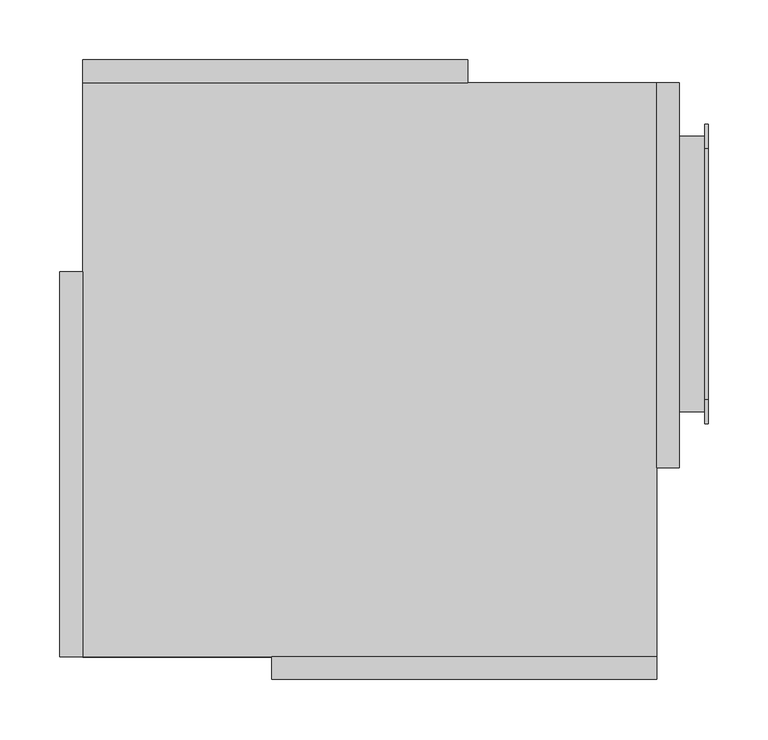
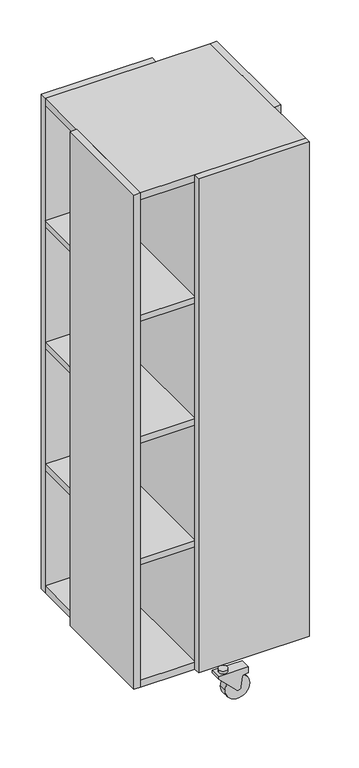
"""IFC4 building model written with IfcOpenShell, lengths in millimetres: furniture geometry, BK Library - Linnea : BK Library - Linnea."""

from ifc_helpers import new_model, si_unit, point, frame, frame_2d, origin, place, context, project, spatial, polyline, circle_curve, trimmed, segment, composite_curve, outline, extrude, source, transform, mapped, element, save
from ifc_brep_helpers import plane_surface, cylinder_surface, advanced_brep


def furniture_a3d0dc02(model_context):
    return source(origin(), model_context, "Body", "SolidModel", [
        advanced_brep(
        [(283.0, -25.0, 1486.75), (283.0, -45.0, 1466.75), (283.0, -45.0, 1274.75), (283.0, -40.0, 1269.75), (283.0, -35.0, 1269.75), (283.0, 195.0, 1269.75), (283.0, 200.0, 1269.75), (283.0, 205.0, 1274.75), (283.0, 205.0, 1466.75), (283.0, 185.0, 1486.75), (280.0, -25.0, 1486.75), (280.0, 185.0, 1486.75), (280.0, 205.0, 1466.75), (280.0, 205.0, 1274.75), (280.0, 200.0, 1269.75), (280.0, 195.0, 1269.75), (280.0, -35.0, 1269.75), (280.0, -40.0, 1269.75), (280.0, -45.0, 1274.75), (280.0, -45.0, 1466.75), (280.0, 195.0, 1266.75), (259.0, 195.0, 1266.75), (259.0, 195.0, 1269.75), (259.0, -35.0, 1269.75), (259.0, -35.0, 1266.75), (280.0, -35.0, 1266.75)],
        [
            (0, 1, circle_curve(frame((283.0, -25.0, 1466.75), z_axis=(1.0, 0.0, 0.0), x_axis=(0.0, -1.0, 0.0)), 20.0)),
            (1, 2),
            (2, 3, circle_curve(frame((283.0, -40.0, 1274.75), z_axis=(1.0, 0.0, 0.0), x_axis=(0.0, -1.0, 0.0)), 5.0)),
            (3, 4),
            (4, 5),
            (5, 6),
            (6, 7, circle_curve(frame((283.0, 200.0, 1274.75), z_axis=(1.0, 0.0, 0.0), x_axis=(0.0, -1.0, 0.0)), 5.0)),
            (7, 8),
            (8, 9, circle_curve(frame((283.0, 185.0, 1466.75), z_axis=(1.0, 0.0, 0.0), x_axis=(0.0, -1.0, 0.0)), 20.0)),
            (9, 0),
            (10, 11),
            (11, 12, circle_curve(frame((280.0, 185.0, 1466.75), z_axis=(-1.0, 0.0, 0.0), x_axis=(0.0, -1.0, 0.0)), 20.0)),
            (12, 13),
            (13, 14, circle_curve(frame((280.0, 200.0, 1274.75), z_axis=(-1.0, 0.0, 0.0), x_axis=(0.0, -1.0, 0.0)), 5.0)),
            (14, 15),
            (15, 16),
            (16, 17),
            (17, 18, circle_curve(frame((280.0, -40.0, 1274.75), z_axis=(-1.0, 0.0, 0.0), x_axis=(0.0, -1.0, 0.0)), 5.0)),
            (18, 19),
            (19, 10, circle_curve(frame((280.0, -25.0, 1466.75), z_axis=(-1.0, 0.0, 0.0), x_axis=(0.0, -1.0, 0.0)), 20.0)),
            (0, 10),
            (19, 1),
            (18, 2),
            (17, 3),
            (16, 4),
            (5, 15),
            (14, 6),
            (13, 7),
            (12, 8),
            (11, 9),
            (5, 20, circle_curve(frame((280.0, 195.0, 1269.75), z_axis=(0.0, 1.0, 0.0), x_axis=(-1.0, 0.0, 0.0)), 3.0)),
            (20, 21),
            (21, 22),
            (22, 15),
            (16, 23),
            (23, 24),
            (24, 25),
            (25, 4, circle_curve(frame((280.0, -35.0, 1269.75), z_axis=(0.0, -1.0, 0.0), x_axis=(-1.0, 0.0, 0.0)), 3.0)),
            (25, 20),
            (24, 21),
            (23, 22),
        ],
        [
            plane_surface(frame((283.0, -45.0, 1466.75), z_axis=(1.0, 0.0, 0.0), x_axis=(0.0, 0.0, -1.0))),
            plane_surface(frame((280.0, -45.0, 1466.75), z_axis=(-1.0, 0.0, 0.0), x_axis=(0.0, 0.0, 1.0))),
            cylinder_surface(frame((280.0, -25.0, 1466.75), z_axis=(1.0, 0.0, 0.0), x_axis=(0.0, -1.0, 0.0)), 20.0),
            plane_surface(frame((283.0, -45.0, 1466.75), z_axis=(0.0, -1.0, 0.0), x_axis=(-1.0, 0.0, 0.0))),
            cylinder_surface(frame((280.0, -40.0, 1274.75), z_axis=(1.0, 0.0, 0.0), x_axis=(0.0, -1.0, 0.0)), 5.0),
            plane_surface(frame((283.0, -40.0, 1269.75), z_axis=(0.0, 0.0, -1.0), x_axis=(-1.0, 0.0, 0.0))),
            plane_surface(frame((283.0, 195.0, 1269.75), z_axis=(0.0, 0.0, -1.0), x_axis=(-1.0, 0.0, 0.0))),
            cylinder_surface(frame((280.0, 200.0, 1274.75), z_axis=(1.0, 0.0, 0.0), x_axis=(0.0, -1.0, 0.0)), 5.0),
            plane_surface(frame((283.0, 205.0, 1274.75), z_axis=(0.0, 1.0, 0.0), x_axis=(-1.0, 0.0, 0.0))),
            cylinder_surface(frame((280.0, 185.0, 1466.75), z_axis=(1.0, 0.0, 0.0), x_axis=(0.0, -1.0, 0.0)), 20.0),
            plane_surface(frame((283.0, 185.0, 1486.75), z_axis=(0.0, 0.0, 1.0), x_axis=(-1.0, 0.0, 0.0))),
            plane_surface(frame((280.0, 195.0, 895.5), z_axis=(0.0, 1.0, 0.0), x_axis=(1.0, 0.0, 0.0))),
            plane_surface(frame((280.0, -35.0, 895.5), z_axis=(0.0, -1.0, 0.0), x_axis=(-1.0, 0.0, 0.0))),
            cylinder_surface(frame((280.0, 0.0, 1269.75), z_axis=(0.0, 1.0, 0.0), x_axis=(-1.0, 0.0, 0.0)), 3.0),
            plane_surface(frame((280.0, 195.0, 1266.75), z_axis=(0.0, 0.0, -1.0), x_axis=(0.0, -1.0, 0.0))),
            plane_surface(frame((259.0, 195.0, 1266.75), z_axis=(-1.0, 0.0, 0.0), x_axis=(0.0, -1.0, 0.0))),
            plane_surface(frame((259.0, 195.0, 1269.75), z_axis=(0.0, 0.0, 1.0), x_axis=(0.0, -1.0, 0.0))),
        ],
        [
            (0, [[1, 2, 3, 4, 5, 6, 7, 8, 9, 10]]),
            (1, [[11, 12, 13, 14, 15, 16, 17, 18, 19, 20]]),
            (2, [[-1, 21, -20, 22]]),
            (3, [[-2, -22, -19, 23]]),
            (4, [[-3, -23, -18, 24]]),
            (5, [[-4, -24, -17, 25]]),
            (6, [[-6, 26, -15, 27]]),
            (7, [[-7, -27, -14, 28]]),
            (8, [[-8, -28, -13, 29]]),
            (9, [[-9, -29, -12, 30]]),
            (10, [[-10, -30, -11, -21]]),
            (11, [[31, 32, 33, 34, -26]]),
            (12, [[35, 36, 37, 38, -25]]),
            (13, [[-31, -5, -38, 39]]),
            (14, [[-32, -39, -37, 40]]),
            (15, [[-33, -40, -36, 41]]),
            (16, [[-34, -41, -35, -16]]),
        ],
    ),
        advanced_brep(
        [(283.0, -25.0, 1112.5), (283.0, -45.0, 1092.5), (283.0, -45.0, 900.5), (283.0, -40.0, 895.5), (283.0, -35.0, 895.5), (283.0, 195.0, 895.5), (283.0, 200.0, 895.5), (283.0, 205.0, 900.5), (283.0, 205.0, 1092.5), (283.0, 185.0, 1112.5), (280.0, -25.0, 1112.5), (280.0, 185.0, 1112.5), (280.0, 205.0, 1092.5), (280.0, 205.0, 900.5), (280.0, 200.0, 895.5), (280.0, 195.0, 895.5), (280.0, -35.0, 895.5), (280.0, -40.0, 895.5), (280.0, -45.0, 900.5), (280.0, -45.0, 1092.5), (280.0, 195.0, 892.5), (259.0, 195.0, 892.5), (259.0, 195.0, 895.5), (259.0, -35.0, 895.5), (259.0, -35.0, 892.5), (280.0, -35.0, 892.5)],
        [
            (0, 1, circle_curve(frame((283.0, -25.0, 1092.5), z_axis=(1.0, 0.0, 0.0), x_axis=(0.0, -1.0, 0.0)), 20.0)),
            (1, 2),
            (2, 3, circle_curve(frame((283.0, -40.0, 900.5), z_axis=(1.0, 0.0, 0.0), x_axis=(0.0, -1.0, 0.0)), 5.0)),
            (3, 4),
            (4, 5),
            (5, 6),
            (6, 7, circle_curve(frame((283.0, 200.0, 900.5), z_axis=(1.0, 0.0, 0.0), x_axis=(0.0, -1.0, 0.0)), 5.0)),
            (7, 8),
            (8, 9, circle_curve(frame((283.0, 185.0, 1092.5), z_axis=(1.0, 0.0, 0.0), x_axis=(0.0, -1.0, 0.0)), 20.0)),
            (9, 0),
            (10, 11),
            (11, 12, circle_curve(frame((280.0, 185.0, 1092.5), z_axis=(-1.0, 0.0, 0.0), x_axis=(0.0, -1.0, 0.0)), 20.0)),
            (12, 13),
            (13, 14, circle_curve(frame((280.0, 200.0, 900.5), z_axis=(-1.0, 0.0, 0.0), x_axis=(0.0, -1.0, 0.0)), 5.0)),
            (14, 15),
            (15, 16),
            (16, 17),
            (17, 18, circle_curve(frame((280.0, -40.0, 900.5), z_axis=(-1.0, 0.0, 0.0), x_axis=(0.0, -1.0, 0.0)), 5.0)),
            (18, 19),
            (19, 10, circle_curve(frame((280.0, -25.0, 1092.5), z_axis=(-1.0, 0.0, 0.0), x_axis=(0.0, -1.0, 0.0)), 20.0)),
            (0, 10),
            (19, 1),
            (18, 2),
            (17, 3),
            (16, 4),
            (5, 15),
            (14, 6),
            (13, 7),
            (12, 8),
            (11, 9),
            (5, 20, circle_curve(frame((280.0, 195.0, 895.5), z_axis=(0.0, 1.0, 0.0), x_axis=(-1.0, 0.0, 0.0)), 3.0)),
            (20, 21),
            (21, 22),
            (22, 15),
            (16, 23),
            (23, 24),
            (24, 25),
            (25, 4, circle_curve(frame((280.0, -35.0, 895.5), z_axis=(0.0, -1.0, 0.0), x_axis=(-1.0, 0.0, 0.0)), 3.0)),
            (25, 20),
            (24, 21),
            (23, 22),
        ],
        [
            plane_surface(frame((283.0, -45.0, 1466.75), z_axis=(1.0, 0.0, 0.0), x_axis=(0.0, 0.0, -1.0))),
            plane_surface(frame((280.0, -45.0, 1466.75), z_axis=(-1.0, 0.0, 0.0), x_axis=(0.0, 0.0, 1.0))),
            cylinder_surface(frame((120.0, -25.0, 1092.5), z_axis=(1.0, 0.0, 0.0), x_axis=(0.0, -1.0, 0.0)), 20.0),
            plane_surface(frame((283.0, -45.0, 1092.5), z_axis=(0.0, -1.0, 0.0), x_axis=(-1.0, 0.0, 0.0))),
            cylinder_surface(frame((120.0, -40.0, 900.5), z_axis=(1.0, 0.0, 0.0), x_axis=(0.0, -1.0, 0.0)), 5.0),
            plane_surface(frame((283.0, -40.0, 895.5), z_axis=(0.0, 0.0, -1.0), x_axis=(-1.0, 0.0, 0.0))),
            plane_surface(frame((283.0, 195.0, 895.5), z_axis=(0.0, 0.0, -1.0), x_axis=(-1.0, 0.0, 0.0))),
            cylinder_surface(frame((120.0, 200.0, 900.5), z_axis=(1.0, 0.0, 0.0), x_axis=(0.0, -1.0, 0.0)), 5.0),
            plane_surface(frame((283.0, 205.0, 900.5), z_axis=(0.0, 1.0, 0.0), x_axis=(-1.0, 0.0, 0.0))),
            cylinder_surface(frame((120.0, 185.0, 1092.5), z_axis=(1.0, 0.0, 0.0), x_axis=(0.0, -1.0, 0.0)), 20.0),
            plane_surface(frame((283.0, 185.0, 1112.5), z_axis=(0.0, 0.0, 1.0), x_axis=(-1.0, 0.0, 0.0))),
            plane_surface(frame((280.0, 195.0, 895.5), z_axis=(0.0, 1.0, 0.0), x_axis=(1.0, 0.0, 0.0))),
            plane_surface(frame((280.0, -35.0, 895.5), z_axis=(0.0, -1.0, 0.0), x_axis=(-1.0, 0.0, 0.0))),
            cylinder_surface(frame((280.0, -35.0, 895.5), z_axis=(0.0, 1.0, 0.0), x_axis=(-1.0, 0.0, 0.0)), 3.0),
            plane_surface(frame((280.0, 195.0, 892.5), z_axis=(0.0, 0.0, -1.0), x_axis=(0.0, -1.0, 0.0))),
            plane_surface(frame((259.0, 195.0, 892.5), z_axis=(-1.0, 0.0, 0.0), x_axis=(0.0, -1.0, 0.0))),
            plane_surface(frame((259.0, 195.0, 895.5), z_axis=(0.0, 0.0, 1.0), x_axis=(0.0, -1.0, 0.0))),
        ],
        [
            (0, [[1, 2, 3, 4, 5, 6, 7, 8, 9, 10]]),
            (1, [[11, 12, 13, 14, 15, 16, 17, 18, 19, 20]]),
            (2, [[-1, 21, -20, 22]]),
            (3, [[-2, -22, -19, 23]]),
            (4, [[-3, -23, -18, 24]]),
            (5, [[-4, -24, -17, 25]]),
            (6, [[-6, 26, -15, 27]]),
            (7, [[-7, -27, -14, 28]]),
            (8, [[-8, -28, -13, 29]]),
            (9, [[-9, -29, -12, 30]]),
            (10, [[-10, -30, -11, -21]]),
            (11, [[31, 32, 33, 34, -26]]),
            (12, [[35, 36, 37, 38, -25]]),
            (13, [[-31, -5, -38, 39]]),
            (14, [[-32, -39, -37, 40]]),
            (15, [[-33, -40, -36, 41]]),
            (16, [[-34, -41, -35, -16]]),
        ],
    ),
        advanced_brep(
        [(283.0, -25.0, 738.25), (283.0, -45.0, 718.25), (283.0, -45.0, 526.25), (283.0, -40.0, 521.25), (283.0, -35.0, 521.25), (283.0, 195.0, 521.25), (283.0, 200.0, 521.25), (283.0, 205.0, 526.25), (283.0, 205.0, 718.25), (283.0, 185.0, 738.25), (280.0, -25.0, 738.25), (280.0, 185.0, 738.25), (280.0, 205.0, 718.25), (280.0, 205.0, 526.25), (280.0, 200.0, 521.25), (280.0, 195.0, 521.25), (280.0, -35.0, 521.25), (280.0, -40.0, 521.25), (280.0, -45.0, 526.25), (280.0, -45.0, 718.25), (280.0, 195.0, 518.25), (259.0, 195.0, 518.25), (259.0, 195.0, 521.25), (259.0, -35.0, 521.25), (259.0, -35.0, 518.25), (280.0, -35.0, 518.25)],
        [
            (0, 1, circle_curve(frame((283.0, -25.0, 718.25), z_axis=(1.0, 0.0, 0.0), x_axis=(0.0, -1.0, 0.0)), 20.0)),
            (1, 2),
            (2, 3, circle_curve(frame((283.0, -40.0, 526.25), z_axis=(1.0, 0.0, 0.0), x_axis=(0.0, -1.0, 0.0)), 5.0)),
            (3, 4),
            (4, 5),
            (5, 6),
            (6, 7, circle_curve(frame((283.0, 200.0, 526.25), z_axis=(1.0, 0.0, 0.0), x_axis=(0.0, -1.0, 0.0)), 5.0)),
            (7, 8),
            (8, 9, circle_curve(frame((283.0, 185.0, 718.25), z_axis=(1.0, 0.0, 0.0), x_axis=(0.0, -1.0, 0.0)), 20.0)),
            (9, 0),
            (10, 11),
            (11, 12, circle_curve(frame((280.0, 185.0, 718.25), z_axis=(-1.0, 0.0, 0.0), x_axis=(0.0, -1.0, 0.0)), 20.0)),
            (12, 13),
            (13, 14, circle_curve(frame((280.0, 200.0, 526.25), z_axis=(-1.0, 0.0, 0.0), x_axis=(0.0, -1.0, 0.0)), 5.0)),
            (14, 15),
            (15, 16),
            (16, 17),
            (17, 18, circle_curve(frame((280.0, -40.0, 526.25), z_axis=(-1.0, 0.0, 0.0), x_axis=(0.0, -1.0, 0.0)), 5.0)),
            (18, 19),
            (19, 10, circle_curve(frame((280.0, -25.0, 718.25), z_axis=(-1.0, 0.0, 0.0), x_axis=(0.0, -1.0, 0.0)), 20.0)),
            (0, 10),
            (19, 1),
            (18, 2),
            (17, 3),
            (16, 4),
            (5, 15),
            (14, 6),
            (13, 7),
            (12, 8),
            (11, 9),
            (5, 20, circle_curve(frame((280.0, 195.0, 521.25), z_axis=(0.0, 1.0, 0.0), x_axis=(-1.0, 0.0, 0.0)), 3.0)),
            (20, 21),
            (21, 22),
            (22, 15),
            (16, 23),
            (23, 24),
            (24, 25),
            (25, 4, circle_curve(frame((280.0, -35.0, 521.25), z_axis=(0.0, -1.0, 0.0), x_axis=(-1.0, 0.0, 0.0)), 3.0)),
            (25, 20),
            (24, 21),
            (23, 22),
        ],
        [
            plane_surface(frame((283.0, -45.0, 1466.75), z_axis=(1.0, 0.0, 0.0), x_axis=(0.0, 0.0, -1.0))),
            plane_surface(frame((280.0, -45.0, 1466.75), z_axis=(-1.0, 0.0, 0.0), x_axis=(0.0, 0.0, 1.0))),
            cylinder_surface(frame((120.0, -25.0, 718.25), z_axis=(1.0, 0.0, 0.0), x_axis=(0.0, -1.0, 0.0)), 20.0),
            plane_surface(frame((283.0, -45.0, 718.25), z_axis=(0.0, -1.0, 0.0), x_axis=(-1.0, 0.0, 0.0))),
            cylinder_surface(frame((120.0, -40.0, 526.25), z_axis=(1.0, 0.0, 0.0), x_axis=(0.0, -1.0, 0.0)), 5.0),
            plane_surface(frame((283.0, -40.0, 521.25), z_axis=(0.0, 0.0, -1.0), x_axis=(-1.0, 0.0, 0.0))),
            plane_surface(frame((283.0, 195.0, 521.25), z_axis=(0.0, 0.0, -1.0), x_axis=(-1.0, 0.0, 0.0))),
            cylinder_surface(frame((120.0, 200.0, 526.25), z_axis=(1.0, 0.0, 0.0), x_axis=(0.0, -1.0, 0.0)), 5.0),
            plane_surface(frame((283.0, 205.0, 526.25), z_axis=(0.0, 1.0, 0.0), x_axis=(-1.0, 0.0, 0.0))),
            cylinder_surface(frame((120.0, 185.0, 718.25), z_axis=(1.0, 0.0, 0.0), x_axis=(0.0, -1.0, 0.0)), 20.0),
            plane_surface(frame((283.0, 185.0, 738.25), z_axis=(0.0, 0.0, 1.0), x_axis=(-1.0, 0.0, 0.0))),
            plane_surface(frame((280.0, 195.0, 895.5), z_axis=(0.0, 1.0, 0.0), x_axis=(1.0, 0.0, 0.0))),
            plane_surface(frame((280.0, -35.0, 895.5), z_axis=(0.0, -1.0, 0.0), x_axis=(-1.0, 0.0, 0.0))),
            cylinder_surface(frame((280.0, 0.0, 521.25), z_axis=(0.0, 1.0, 0.0), x_axis=(-1.0, 0.0, 0.0)), 3.0),
            plane_surface(frame((280.0, 195.0, 518.25), z_axis=(0.0, 0.0, -1.0), x_axis=(0.0, -1.0, 0.0))),
            plane_surface(frame((259.0, 195.0, 518.25), z_axis=(-1.0, 0.0, 0.0), x_axis=(0.0, -1.0, 0.0))),
            plane_surface(frame((259.0, 195.0, 521.25), z_axis=(0.0, 0.0, 1.0), x_axis=(0.0, -1.0, 0.0))),
        ],
        [
            (0, [[1, 2, 3, 4, 5, 6, 7, 8, 9, 10]]),
            (1, [[11, 12, 13, 14, 15, 16, 17, 18, 19, 20]]),
            (2, [[-1, 21, -20, 22]]),
            (3, [[-2, -22, -19, 23]]),
            (4, [[-3, -23, -18, 24]]),
            (5, [[-4, -24, -17, 25]]),
            (6, [[-6, 26, -15, 27]]),
            (7, [[-7, -27, -14, 28]]),
            (8, [[-8, -28, -13, 29]]),
            (9, [[-9, -29, -12, 30]]),
            (10, [[-10, -30, -11, -21]]),
            (11, [[31, 32, 33, 34, -26]]),
            (12, [[35, 36, 37, 38, -25]]),
            (13, [[-31, -5, -38, 39]]),
            (14, [[-32, -39, -37, 40]]),
            (15, [[-33, -40, -36, 41]]),
            (16, [[-34, -41, -35, -16]]),
        ],
    ),
        advanced_brep(
        [(283.0, -25.0, 364.0), (283.0, -45.0, 344.0), (283.0, -45.0, 152.0), (283.0, -40.0, 147.0), (283.0, -35.0, 147.0), (283.0, 195.0, 147.0), (283.0, 200.0, 147.0), (283.0, 205.0, 152.0), (283.0, 205.0, 344.0), (283.0, 185.0, 364.0), (280.0, -25.0, 364.0), (280.0, 185.0, 364.0), (280.0, 205.0, 344.0), (280.0, 205.0, 152.0), (280.0, 200.0, 147.0), (280.0, 195.0, 147.0), (280.0, -35.0, 147.0), (280.0, -40.0, 147.0), (280.0, -45.0, 152.0), (280.0, -45.0, 344.0), (280.0, 195.0, 144.0), (259.0, 195.0, 144.0), (259.0, 195.0, 147.0), (259.0, -35.0, 147.0), (259.0, -35.0, 144.0), (280.0, -35.0, 144.0)],
        [
            (0, 1, circle_curve(frame((283.0, -25.0, 344.0), z_axis=(1.0, 0.0, 0.0), x_axis=(0.0, -1.0, 0.0)), 20.0)),
            (1, 2),
            (2, 3, circle_curve(frame((283.0, -40.0, 152.0), z_axis=(1.0, 0.0, 0.0), x_axis=(0.0, -1.0, 0.0)), 5.0)),
            (3, 4),
            (4, 5),
            (5, 6),
            (6, 7, circle_curve(frame((283.0, 200.0, 152.0), z_axis=(1.0, 0.0, 0.0), x_axis=(0.0, -1.0, 0.0)), 5.0)),
            (7, 8),
            (8, 9, circle_curve(frame((283.0, 185.0, 344.0), z_axis=(1.0, 0.0, 0.0), x_axis=(0.0, -1.0, 0.0)), 20.0)),
            (9, 0),
            (10, 11),
            (11, 12, circle_curve(frame((280.0, 185.0, 344.0), z_axis=(-1.0, 0.0, 0.0), x_axis=(0.0, -1.0, 0.0)), 20.0)),
            (12, 13),
            (13, 14, circle_curve(frame((280.0, 200.0, 152.0), z_axis=(-1.0, 0.0, 0.0), x_axis=(0.0, -1.0, 0.0)), 5.0)),
            (14, 15),
            (15, 16),
            (16, 17),
            (17, 18, circle_curve(frame((280.0, -40.0, 152.0), z_axis=(-1.0, 0.0, 0.0), x_axis=(0.0, -1.0, 0.0)), 5.0)),
            (18, 19),
            (19, 10, circle_curve(frame((280.0, -25.0, 344.0), z_axis=(-1.0, 0.0, 0.0), x_axis=(0.0, -1.0, 0.0)), 20.0)),
            (0, 10),
            (19, 1),
            (18, 2),
            (17, 3),
            (16, 4),
            (5, 15),
            (14, 6),
            (13, 7),
            (12, 8),
            (11, 9),
            (5, 20, circle_curve(frame((280.0, 195.0, 147.0), z_axis=(0.0, 1.0, 0.0), x_axis=(-1.0, 0.0, 0.0)), 3.0)),
            (20, 21),
            (21, 22),
            (22, 15),
            (16, 23),
            (23, 24),
            (24, 25),
            (25, 4, circle_curve(frame((280.0, -35.0, 147.0), z_axis=(0.0, -1.0, 0.0), x_axis=(-1.0, 0.0, 0.0)), 3.0)),
            (25, 20),
            (24, 21),
            (23, 22),
        ],
        [
            plane_surface(frame((283.0, -45.0, 1466.75), z_axis=(1.0, 0.0, 0.0), x_axis=(0.0, 0.0, -1.0))),
            plane_surface(frame((280.0, -45.0, 1466.75), z_axis=(-1.0, 0.0, 0.0), x_axis=(0.0, 0.0, 1.0))),
            cylinder_surface(frame((120.0, -25.0, 344.0), z_axis=(1.0, 0.0, 0.0), x_axis=(0.0, -1.0, 0.0)), 20.0),
            plane_surface(frame((283.0, -45.0, 344.0), z_axis=(0.0, -1.0, 0.0), x_axis=(-1.0, 0.0, 0.0))),
            cylinder_surface(frame((120.0, -40.0, 152.0), z_axis=(1.0, 0.0, 0.0), x_axis=(0.0, -1.0, 0.0)), 5.0),
            plane_surface(frame((283.0, -40.0, 147.0), z_axis=(0.0, 0.0, -1.0), x_axis=(-1.0, 0.0, 0.0))),
            plane_surface(frame((283.0, 195.0, 147.0), z_axis=(0.0, 0.0, -1.0), x_axis=(-1.0, 0.0, 0.0))),
            cylinder_surface(frame((120.0, 200.0, 152.0), z_axis=(1.0, 0.0, 0.0), x_axis=(0.0, -1.0, 0.0)), 5.0),
            plane_surface(frame((283.0, 205.0, 152.0), z_axis=(0.0, 1.0, 0.0), x_axis=(-1.0, 0.0, 0.0))),
            cylinder_surface(frame((120.0, 185.0, 344.0), z_axis=(1.0, 0.0, 0.0), x_axis=(0.0, -1.0, 0.0)), 20.0),
            plane_surface(frame((283.0, 185.0, 364.0), z_axis=(0.0, 0.0, 1.0), x_axis=(-1.0, 0.0, 0.0))),
            plane_surface(frame((280.0, 195.0, 895.5), z_axis=(0.0, 1.0, 0.0), x_axis=(1.0, 0.0, 0.0))),
            plane_surface(frame((280.0, -35.0, 895.5), z_axis=(0.0, -1.0, 0.0), x_axis=(-1.0, 0.0, 0.0))),
            cylinder_surface(frame((280.0, 0.0, 147.0), z_axis=(0.0, 1.0, 0.0), x_axis=(-1.0, 0.0, 0.0)), 3.0),
            plane_surface(frame((280.0, 195.0, 144.0), z_axis=(0.0, 0.0, -1.0), x_axis=(0.0, -1.0, 0.0))),
            plane_surface(frame((259.0, 195.0, 144.0), z_axis=(-1.0, 0.0, 0.0), x_axis=(0.0, -1.0, 0.0))),
            plane_surface(frame((259.0, 195.0, 147.0), z_axis=(0.0, 0.0, 1.0), x_axis=(0.0, -1.0, 0.0))),
        ],
        [
            (0, [[1, 2, 3, 4, 5, 6, 7, 8, 9, 10]]),
            (1, [[11, 12, 13, 14, 15, 16, 17, 18, 19, 20]]),
            (2, [[-1, 21, -20, 22]]),
            (3, [[-2, -22, -19, 23]]),
            (4, [[-3, -23, -18, 24]]),
            (5, [[-4, -24, -17, 25]]),
            (6, [[-6, 26, -15, 27]]),
            (7, [[-7, -27, -14, 28]]),
            (8, [[-8, -28, -13, 29]]),
            (9, [[-9, -29, -12, 30]]),
            (10, [[-10, -30, -11, -21]]),
            (11, [[31, 32, 33, 34, -26]]),
            (12, [[35, 36, 37, 38, -25]]),
            (13, [[-31, -5, -38, 39]]),
            (14, [[-32, -39, -37, 40]]),
            (15, [[-33, -40, -36, 41]]),
            (16, [[-34, -41, -35, -16]]),
        ],
    ),
        extrude(outline(polyline([(-259.0, -240.0), (-259.0, 82.0), (-240.0, 82.0), (-240.0, -240.0), (-259.0, -240.0)])), frame((0.0, 0.0, 123.0), z_axis=(0.0, 0.0, 1.0), x_axis=(1.0, 0.0, 0.0)), (0.0, 0.0, 1.0), 1520.0),
        extrude(outline(polyline([(-82.0, -240.0), (240.0, -240.0), (240.0, -259.0), (-82.0, -259.0), (-82.0, -240.0)])), frame((0.0, 0.0, 123.0), z_axis=(0.0, 0.0, 1.0), x_axis=(1.0, 0.0, 0.0)), (0.0, 0.0, 1.0), 1520.0),
        extrude(outline(polyline([(259.0, 240.0), (259.0, -82.0), (240.0, -82.0), (240.0, 240.0), (259.0, 240.0)])), frame((0.0, 0.0, 123.0), z_axis=(0.0, 0.0, 1.0), x_axis=(1.0, 0.0, 0.0)), (0.0, 0.0, 1.0), 1520.0),
        extrude(outline(polyline([(82.0, 240.0), (-240.0, 240.0), (-240.0, 259.0), (82.0, 259.0), (82.0, 240.0)])), frame((0.0, 0.0, 123.0), z_axis=(0.0, 0.0, 1.0), x_axis=(1.0, 0.0, 0.0)), (0.0, 0.0, 1.0), 1520.0),
        extrude(outline(polyline([(-240.0, 80.0), (61.0, 80.0), (61.0, 240.0), (80.0, 240.0), (80.0, -61.0), (240.0, -61.0), (240.0, -80.0), (-61.0, -80.0), (-61.0, -240.0), (-80.0, -240.0), (-80.0, 61.0), (-240.0, 61.0), (-240.0, 80.0)])), frame((0.0, 0.0, 144.0), z_axis=(0.0, 0.0, 1.0), x_axis=(1.0, 0.0, 0.0)), (0.0, 0.0, 1.0), 1478.0),
        extrude(outline(composite_curve([segment(trimmed(circle_curve(frame_2d((-0.0297778, -239.953151)), 12.5248147), [point((-12.5545925, -239.953151))], [point((12.4950369, -239.953151))], False, "CARTESIAN"), True, "CONTINUOUS"), segment(trimmed(circle_curve(frame_2d((-0.0297778, -239.953151)), 12.5248147), [point((12.4950369, -239.953151))], [point((-12.5545925, -239.953151))], False, "CARTESIAN"), True, "CONTINUOUS")], self_intersect=False)), frame((0.0, 0.0, 87.7), z_axis=(0.0, 0.0, 1.0), x_axis=(1.0, 0.0, 0.0)), (0.0, 0.0, 1.0), 9.3),
        extrude(outline(composite_curve([segment(polyline([(72.665374, 64.8809252), (88.2, 64.8809252), (88.2, -21.6175881), (80.4985188, -21.6175881), (29.8327739, 29.2344619)]), True, "CONTINUOUS"), segment(trimmed(circle_curve(frame_2d((35.5, 34.8809252)), 8.0), [point((29.8327739, 29.2344619))], [point((34.4278369, 42.8087538))], False, "CARTESIAN"), True, "CONTINUOUS"), segment(polyline([(34.4278369, 42.8087538), (66.4454242, 47.1388267)]), True, "CONTINUOUS"), segment(trimmed(circle_curve(frame_2d((66.1773834, 49.1207838)), 2.0), [point((66.4454242, 47.1388267))], [point((68.1469989, 48.7734874))], True, "CARTESIAN"), True, "CONTINUOUS"), segment(polyline([(68.1469989, 48.7734874), (70.6957585, 63.2282216)]), True, "CONTINUOUS"), segment(trimmed(circle_curve(frame_2d((72.665374, 62.8809252)), 2.0), [point((70.6957585, 63.2282216))], [point((72.665374, 64.8809252))], False, "CARTESIAN"), True, "CONTINUOUS")], self_intersect=False)), frame((0.0, -256.0, 0.0), z_axis=(0.0, 1.0, 0.0), x_axis=(0.0, 0.0, 1.0)), (0.0, 0.0, 1.0), 32.0),
        extrude(outline(composite_curve([segment(trimmed(circle_curve(frame_2d((35.6872146, 34.9844968)), 35.6947525), [point((35.6872146, 70.6792492))], [point((35.6872146, -0.7102557))], False, "CARTESIAN"), True, "CONTINUOUS"), segment(trimmed(circle_curve(frame_2d((35.6872146, 34.9844968)), 35.6947525), [point((35.6872146, -0.7102557))], [point((35.6872146, 70.6792492))], False, "CARTESIAN"), True, "CONTINUOUS")], self_intersect=False)), frame((0.0, -252.0, 0.0), z_axis=(0.0, 1.0, 0.0), x_axis=(0.0, 0.0, 1.0)), (0.0, 0.0, 1.0), 24.0),
        extrude(outline(polyline([(240.0, 240.0), (240.0, -240.0), (-240.0, -240.0), (-240.0, 240.0), (240.0, 240.0)])), frame((0.0, 0.0, 1247.75), z_axis=(0.0, 0.0, 1.0), x_axis=(1.0, 0.0, 0.0)), (0.0, 0.0, 1.0), 19.0),
        extrude(outline(polyline([(240.0, 240.0), (240.0, -240.0), (-240.0, -240.0), (-240.0, 240.0), (240.0, 240.0)])), frame((0.0, 0.0, 873.5), z_axis=(0.0, 0.0, 1.0), x_axis=(1.0, 0.0, 0.0)), (0.0, 0.0, 1.0), 19.0),
        extrude(outline(polyline([(240.0, 240.0), (240.0, -240.0), (-240.0, -240.0), (-240.0, 240.0), (240.0, 240.0)])), frame((0.0, 0.0, 499.25), z_axis=(0.0, 0.0, 1.0), x_axis=(1.0, 0.0, 0.0)), (0.0, 0.0, 1.0), 19.0),
        extrude(outline(polyline([(240.0, 240.0), (240.0, -240.0), (-240.0, -240.0), (-240.0, 240.0), (240.0, 240.0)])), frame((0.0, 0.0, 123.0), z_axis=(0.0, 0.0, 1.0), x_axis=(1.0, 0.0, 0.0)), (0.0, 0.0, 1.0), 21.0),
        extrude(outline(polyline([(240.0, 240.0), (240.0, -240.0), (-240.0, -240.0), (-240.0, 240.0), (240.0, 240.0)])), frame((0.0, 0.0, 1622.0), z_axis=(0.0, 0.0, 1.0), x_axis=(1.0, 0.0, 0.0)), (0.0, 0.0, 1.0), 21.0),
    ])


if __name__ == "__main__":
    model = new_model("IFC4")
    model_context = context("Model", 3, world=origin())
    ifc_project = project(units=[si_unit("LENGTHUNIT", "METRE", prefix="MILLI")], contexts=[model_context])
    site = spatial("IfcSite", under=ifc_project)
    building = spatial("IfcBuilding", under=site)
    placement = place(None, origin())
    furniture_shape = furniture_a3d0dc02(model_context)
    element("IfcFurniture", 1, ObjectType="BK Library - Linnea : BK Library - Linnea", at=placement, inside=building, context=model_context, shape_type="MappedRepresentation", body=[
        mapped(furniture_shape, transform((0.0, 0.0, 0.0), x_axis=(1.0, 0.0, 0.0), y_axis=(0.0, 1.0, 0.0), z_axis=(0.0, 0.0, 1.0))),
    ])
    save(model, "model.ifc")
